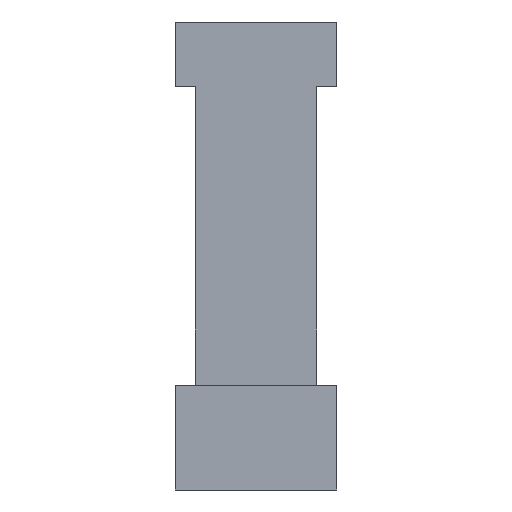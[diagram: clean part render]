
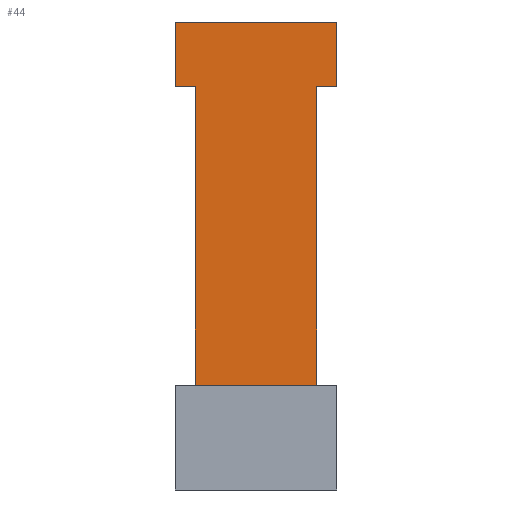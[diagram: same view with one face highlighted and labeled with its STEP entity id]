
A CAD part, front view. The second image highlights one B-rep face of the part: STEP entity #44.
In plain terms, the highlighted planar face has unit normal (0, -1, 0).
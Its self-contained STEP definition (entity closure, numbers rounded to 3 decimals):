
#12 = EDGE_CURVE ( 'NONE', #309, #312, #335, .T. ) ;
#14 = ORIENTED_EDGE ( 'NONE', *, *, #344, .T. ) ;
#15 = EDGE_CURVE ( 'NONE', #233, #29, #323, .T. ) ;
#21 = EDGE_CURVE ( 'NONE', #508, #556, #41, .T. ) ;
#24 = CARTESIAN_POINT ( 'NONE',  ( 10., 0., -8. ) ) ;
#29 = VERTEX_POINT ( 'NONE', #420 ) ;
#30 = CARTESIAN_POINT ( 'NONE',  ( 10., 0., -8. ) ) ;
#34 = DIRECTION ( 'NONE',  ( -1., 0., 0. ) ) ;
#41 = LINE ( 'NONE', #80, #340 ) ;
#44 = ADVANCED_FACE ( 'NONE', ( #134 ), #611, .T. ) ;
#49 = CARTESIAN_POINT ( 'NONE',  ( -7.5, 0., -8. ) ) ;
#56 = VECTOR ( 'NONE', #105, 1000. ) ;
#80 = CARTESIAN_POINT ( 'NONE',  ( 7.5, 0., -45. ) ) ;
#96 = CARTESIAN_POINT ( 'NONE',  ( -10., 0., -8. ) ) ;
#99 = LINE ( 'NONE', #96, #575 ) ;
#102 = VECTOR ( 'NONE', #124, 1000. ) ;
#105 = DIRECTION ( 'NONE',  ( 0., 0., 1. ) ) ;
#110 = DIRECTION ( 'NONE',  ( 0., 0., -1. ) ) ;
#112 = CARTESIAN_POINT ( 'NONE',  ( -10., 0., 0. ) ) ;
#124 = DIRECTION ( 'NONE',  ( -1., 0., 0. ) ) ;
#134 = FACE_OUTER_BOUND ( 'NONE', #504, .T. ) ;
#146 = CARTESIAN_POINT ( 'NONE',  ( -7.5, 0., -45. ) ) ;
#180 = ORIENTED_EDGE ( 'NONE', *, *, #558, .F. ) ;
#186 = ORIENTED_EDGE ( 'NONE', *, *, #21, .F. ) ;
#233 = VERTEX_POINT ( 'NONE', #376 ) ;
#250 = DIRECTION ( 'NONE',  ( 0., 0., 1. ) ) ;
#295 = CARTESIAN_POINT ( 'NONE',  ( 7.5, 0., -8. ) ) ;
#309 = VERTEX_POINT ( 'NONE', #347 ) ;
#312 = VERTEX_POINT ( 'NONE', #112 ) ;
#323 = LINE ( 'NONE', #570, #437 ) ;
#328 = DIRECTION ( 'NONE',  ( -1., 0., 0. ) ) ;
#335 = LINE ( 'NONE', #528, #492 ) ;
#336 = LINE ( 'NONE', #295, #488 ) ;
#340 = VECTOR ( 'NONE', #34, 1000. ) ;
#342 = CARTESIAN_POINT ( 'NONE',  ( 7.5, 0., -45. ) ) ;
#343 = VECTOR ( 'NONE', #110, 1000. ) ;
#344 = EDGE_CURVE ( 'NONE', #233, #309, #394, .T. ) ;
#347 = CARTESIAN_POINT ( 'NONE',  ( 10., 0., 0. ) ) ;
#348 = LINE ( 'NONE', #540, #343 ) ;
#349 = DIRECTION ( 'NONE',  ( 0., 0., -1. ) ) ;
#351 = CARTESIAN_POINT ( 'NONE',  ( 10., 0., -8. ) ) ;
#361 = ORIENTED_EDGE ( 'NONE', *, *, #15, .F. ) ;
#366 = AXIS2_PLACEMENT_3D ( 'NONE', #30, #525, #458 ) ;
#374 = DIRECTION ( 'NONE',  ( -1., 0., 0. ) ) ;
#376 = CARTESIAN_POINT ( 'NONE',  ( 10., 0., -8. ) ) ;
#394 = LINE ( 'NONE', #351, #56 ) ;
#396 = EDGE_CURVE ( 'NONE', #514, #556, #348, .T. ) ;
#403 = ORIENTED_EDGE ( 'NONE', *, *, #12, .T. ) ;
#420 = CARTESIAN_POINT ( 'NONE',  ( 7.5, 0., -8. ) ) ;
#437 = VECTOR ( 'NONE', #328, 1000. ) ;
#442 = EDGE_CURVE ( 'NONE', #514, #471, #555, .T. ) ;
#453 = ORIENTED_EDGE ( 'NONE', *, *, #442, .F. ) ;
#458 = DIRECTION ( 'NONE',  ( 0., 0., -1. ) ) ;
#471 = VERTEX_POINT ( 'NONE', #573 ) ;
#488 = VECTOR ( 'NONE', #349, 1000. ) ;
#492 = VECTOR ( 'NONE', #374, 1000. ) ;
#504 = EDGE_LOOP ( 'NONE', ( #604, #453, #599, #186, #180, #361, #14, #403 ) ) ;
#508 = VERTEX_POINT ( 'NONE', #342 ) ;
#514 = VERTEX_POINT ( 'NONE', #49 ) ;
#521 = EDGE_CURVE ( 'NONE', #471, #312, #99, .T. ) ;
#525 = DIRECTION ( 'NONE',  ( 0., -1., 0. ) ) ;
#528 = CARTESIAN_POINT ( 'NONE',  ( 10., 0., 0. ) ) ;
#540 = CARTESIAN_POINT ( 'NONE',  ( -7.5, 0., -8. ) ) ;
#555 = LINE ( 'NONE', #24, #102 ) ;
#556 = VERTEX_POINT ( 'NONE', #146 ) ;
#558 = EDGE_CURVE ( 'NONE', #29, #508, #336, .T. ) ;
#570 = CARTESIAN_POINT ( 'NONE',  ( 10., 0., -8. ) ) ;
#573 = CARTESIAN_POINT ( 'NONE',  ( -10., 0., -8. ) ) ;
#575 = VECTOR ( 'NONE', #250, 1000. ) ;
#599 = ORIENTED_EDGE ( 'NONE', *, *, #396, .T. ) ;
#604 = ORIENTED_EDGE ( 'NONE', *, *, #521, .F. ) ;
#611 = PLANE ( 'NONE',  #366 ) ;
